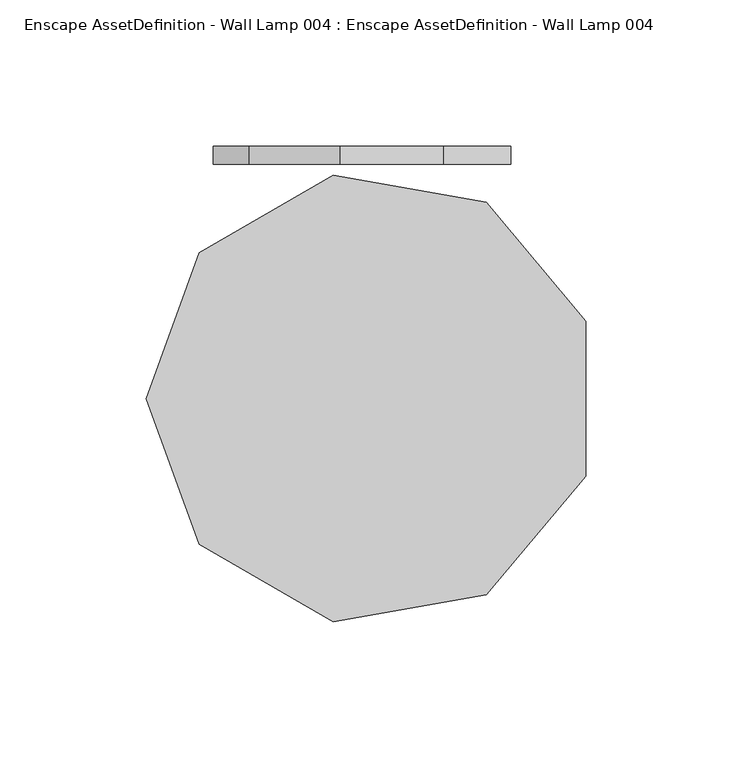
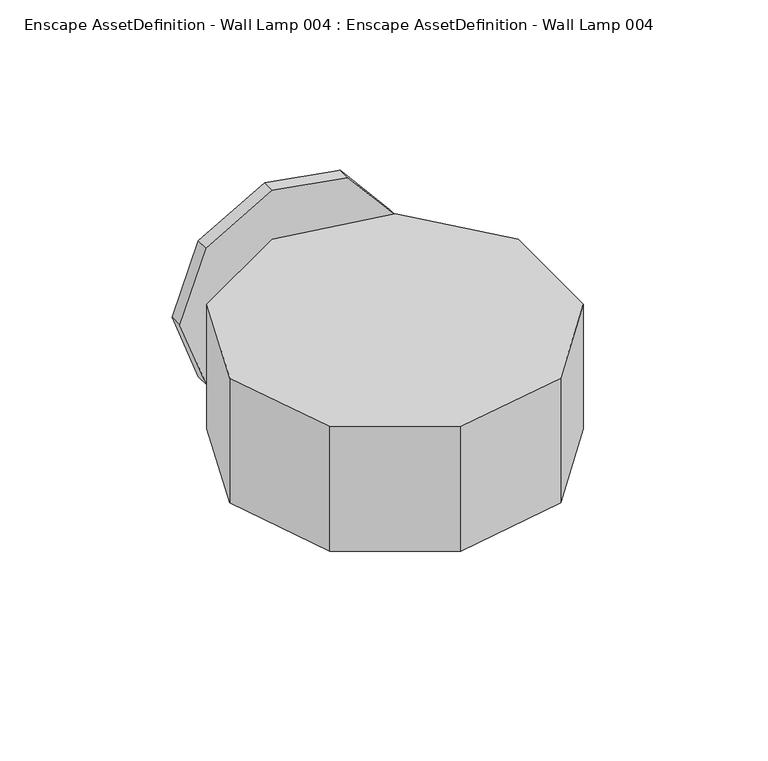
"""IFC4 building model written with IfcOpenShell, lengths in millimetres: geographic element geometry, Enscape AssetDefinition - Wall Lamp 004 : Enscape AssetDefinition - Wall Lamp 004."""

from ifc_helpers import new_model, si_unit, origin, place, context, project, spatial, triangles, source, transform, mapped, element, save


def enscape_assetdefinition_wall_lamp_004_enscape_fca63363(model_context):
    return source(origin(), model_context, "Body", "Tessellation", [
        triangles([(-57.2247592, -136.3927104, 30.6194905), (-75.3857873, -86.4956561, -31.2541833), (-57.2247184, -36.5986041, -31.2541833), (-57.2247592, -136.3927104, -31.2541833), (2.2402461, -86.4956743, 30.6194905), (-75.3857873, -86.4956561, 30.6194905), (-57.2247184, -36.5986041, 30.6194905), (-11.2393451, -10.0489642, -31.2541833), (41.0532763, -19.2695814, 30.6194905), (41.0532763, -19.2695814, -31.2541833), (-11.2393451, -10.0489642, 30.6194905), (75.1848458, -59.9460185, -31.2541833), (75.1848458, -59.9460185, 30.6194905), (75.1848458, -113.0453527, -31.2541833), (2.2402461, -86.4956833, -31.2541833), (41.0532445, -153.7218125, -31.2541833), (75.1848458, -113.0453527, 30.6194905), (41.0532445, -153.7218125, 30.6194905), (-11.2393928, -162.9423979, -31.2541833), (-11.2393928, -162.9423979, 30.6194905), (-52.3274791, -6.1925959, 0.1066893), (-40.0447986, -6.1926055, -33.6396663), (-40.0448077, -6.1925936, 33.8530436), (-40.0448077, 2.5e-05, 33.8530436), (-8.9440012, 1.48e-05, 51.8090969), (-52.3274791, 2.3e-05, 0.1066893), (-40.0447986, 1.3e-05, -33.6396663), (-8.9440041, -3.1e-06, -51.5957151), (-8.9440046, -6.1926157, -51.5957151), (0.1725219, -6.1926129, 0.1066864), (26.4225151, -6.1926271, -45.359645), (26.4225151, -8.6e-06, -45.359645), (0.1725239, 5.9e-06, 0.1066864), (49.5063804, -6.1926288, -17.8493806), (49.5063804, -1.61e-05, -17.8493817), (49.5063895, -6.1926288, 18.0627408), (49.5063895, -1.02e-05, 18.0627385), (26.4225242, -6.1926152, 45.5730222), (26.4225242, 3.3e-06, 45.5730222), (-8.9440029, -6.1926038, 51.8090969)], [[25, 39, 33], [39, 25, 40], [38, 40, 30], [40, 38, 39], [39, 37, 33], [37, 39, 38], [36, 38, 30], [38, 36, 37], [37, 35, 33], [35, 37, 36], [34, 36, 30], [36, 34, 35], [35, 32, 33], [32, 35, 34], [31, 34, 30], [34, 31, 32], [32, 28, 33], [28, 32, 31], [29, 31, 30], [31, 29, 28], [28, 27, 33], [27, 28, 29], [22, 29, 30], [29, 22, 27], [27, 26, 33], [26, 27, 22], [24, 25, 33], [26, 24, 33], [40, 23, 30], [25, 24, 23], [23, 40, 25], [21, 22, 30], [23, 21, 30], [22, 21, 26], [24, 26, 21], [21, 23, 24], [20, 18, 5], [18, 20, 19], [16, 19, 15], [19, 16, 18], [18, 17, 5], [17, 18, 16], [14, 16, 15], [16, 14, 17], [17, 13, 5], [13, 17, 14], [12, 14, 15], [14, 12, 13], [13, 9, 5], [9, 13, 12], [10, 12, 15], [12, 10, 9], [9, 11, 5], [11, 9, 10], [8, 10, 15], [10, 8, 11], [11, 7, 5], [7, 11, 8], [3, 8, 15], [8, 3, 7], [7, 6, 5], [6, 7, 3], [1, 20, 5], [6, 1, 5], [19, 4, 15], [20, 1, 4], [4, 19, 20], [2, 3, 15], [4, 2, 15], [3, 2, 6], [1, 6, 2], [2, 4, 1]]),
    ])


if __name__ == "__main__":
    model = new_model("IFC4")
    model_context = context("Model", 3, world=origin())
    ifc_project = project(units=[si_unit("LENGTHUNIT", "METRE", prefix="MILLI")], contexts=[model_context])
    site = spatial("IfcSite", under=ifc_project)
    building = spatial("IfcBuilding", under=site)
    placement = place(None, origin())
    enscape_assetdefinition_wall_lamp_004_enscape_shape = enscape_assetdefinition_wall_lamp_004_enscape_fca63363(model_context)
    element("IfcGeographicElement", 1, ObjectType="Enscape AssetDefinition - Wall Lamp 004 : Enscape AssetDefinition - Wall Lamp 004", at=placement, inside=building, context=model_context, shape_type="MappedRepresentation", body=[
        mapped(enscape_assetdefinition_wall_lamp_004_enscape_shape, transform((0.0, 0.0, 0.0), x_axis=(1.0, 0.0, 0.0), y_axis=(0.0, 1.0, 0.0), z_axis=(0.0, 0.0, 1.0))),
    ])
    save(model, "model.ifc")
